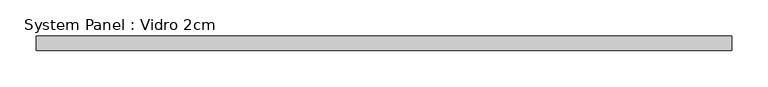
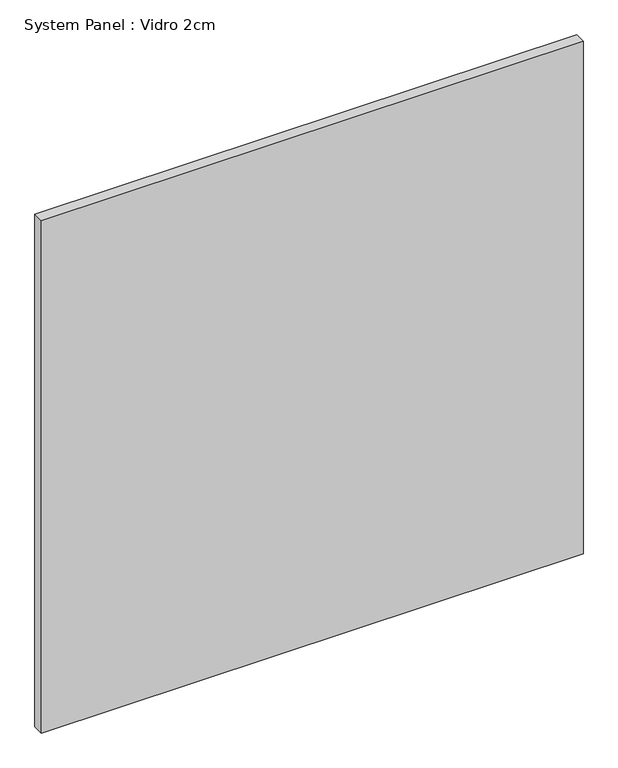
"""IFC4 building model written with IfcOpenShell, lengths in millimetres: plate geometry, System Panel : Vidro 2cm."""

from ifc_helpers import new_model, si_unit, origin, origin_with_axes, place, context, project, spatial, polyline, outline, extrude, source, transform, mapped, element, save


def system_panel_vidro_2cm_7b007d6b(model_context):
    return source(origin(), model_context, "Body", "SweptSolid", [
        extrude(outline(polyline([(480.0000002, -20.0), (-480.0000002, -20.0), (-480.0000002, 0.0), (480.0000002, 0.0), (480.0000002, -20.0)])), origin_with_axes(), (0.0, 0.0, 1.0), 960.0),
    ])


if __name__ == "__main__":
    model = new_model("IFC4")
    model_context = context("Model", 3, world=origin())
    ifc_project = project(units=[si_unit("LENGTHUNIT", "METRE", prefix="MILLI")], contexts=[model_context])
    site = spatial("IfcSite", under=ifc_project)
    building = spatial("IfcBuilding", under=site)
    placement = place(None, origin())
    system_panel_vidro_2cm_shape = system_panel_vidro_2cm_7b007d6b(model_context)
    element("IfcPlate", 1, ObjectType="System Panel : Vidro 2cm", at=placement, inside=building, context=model_context, shape_type="MappedRepresentation", body=[
        mapped(system_panel_vidro_2cm_shape, transform((0.0, 0.0, 0.0), x_axis=(1.0, 0.0, 0.0), y_axis=(0.0, 1.0, 0.0), z_axis=(0.0, 0.0, 1.0))),
    ])
    save(model, "model.ifc")
